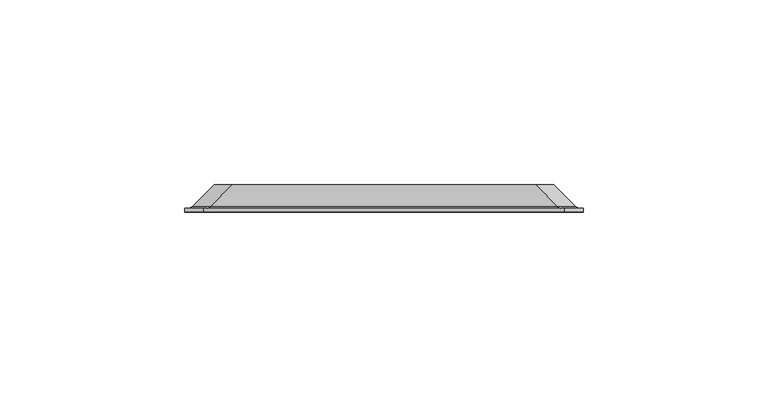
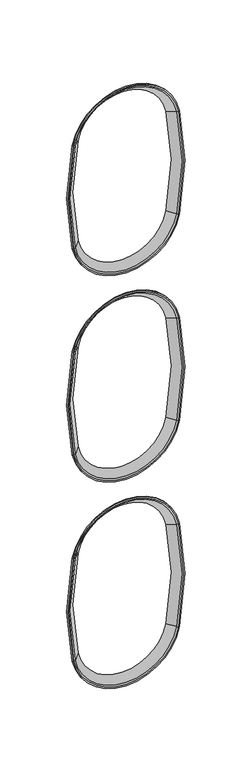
"""IFC4 building model written with IfcOpenShell, lengths in millimetres: proxy geometry, afs-LW-Stud-150 : afs-LW-Stud-150."""

from ifc_helpers import new_model, si_unit, point, frame, origin, place, context, project, spatial, polyline, circle_curve, ellipse_curve, trimmed, source, transform, mapped, element, save
from ifc_brep_helpers import plane_surface, cylinder_surface, revolved_surface, advanced_brep


def generic_models_67d9b5e8(model_context):
    return source(origin(), model_context, "Body", "AdvancedBrep", [
        advanced_brep(
        [(-46.3549295, 1.862006, 999.3576594), (-46.3549295, 1.862006, 900.6423406), (-40.4865309, 7.8489239, 901.8277027), (-40.4865309, 7.8489239, 998.1722973), (-47.7224696, 1.2, 999.6338898), (-47.7224696, 1.2, 900.3661102), (-49.0101813, 2.1883516, 999.8939957), (-49.0101813, 2.1883516, 900.1060043), (-49.0101813, 1.2, 900.1060043), (-49.0101813, 1.2, 999.8939957), (-47.0304204, 2.5870863, 999.4941023), (-47.0304204, 2.5870863, 900.5058977), (-47.9739947, 2.1883516, 900.3153044), (-47.9739947, 2.1883516, 999.6846956), (-41.1796395, 8.5560306, 998.3122988), (-41.1796395, 8.5560306, 901.6877012), (46.3549295, 1.862006, 900.6423406), (46.3549295, 1.862006, 999.3576594), (40.4865309, 7.8489239, 998.1722973), (40.4865309, 7.8489239, 901.8277027), (47.7224696, 1.2, 900.3661102), (47.7224696, 1.2, 999.6338898), (49.0101813, 2.1883516, 900.1060043), (49.0101813, 2.1883516, 999.8939957), (49.0101813, 1.2, 999.8939957), (49.0101813, 1.2, 900.1060043), (47.0304204, 2.5870863, 900.5058977), (47.0304204, 2.5870863, 999.4941023), (47.9739947, 2.1883516, 999.6846956), (47.9739947, 2.1883516, 900.3153044), (41.1796395, 8.5560306, 901.6877012), (41.1796395, 8.5560306, 998.3122988)],
        [
            (0, 1, circle_curve(frame((198.0011326, 1.862006, 950.0), z_axis=(0.0, -1.0, 0.0), x_axis=(-0.9802036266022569, 0.0, -0.19799204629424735)), 249.2911222)),
            (1, 2),
            (2, 3, circle_curve(frame((198.0011326, 7.8489239, 950.0), z_axis=(0.0, 1.0, 0.0), x_axis=(-0.9802036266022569, 0.0, -0.19799204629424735)), 243.3042043)),
            (3, 0),
            (4, 5, circle_curve(frame((198.0011326, 1.2, 950.0), z_axis=(0.0, -1.0, 0.0), x_axis=(-0.9802036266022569, 0.0, -0.19799204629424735)), 250.6862814)),
            (5, 1, circle_curve(frame((-47.9490794, 3.4883516, 900.3203371), z_axis=(-0.19799204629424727, 0.0, 0.9802036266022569), x_axis=(0.9802036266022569, 0.0, 0.19799204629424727)), 2.3)),
            (0, 4, circle_curve(frame((-47.9490794, 3.4883516, 999.6796629), z_axis=(-0.19799204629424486, 0.0, -0.9802036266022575), x_axis=(0.9802036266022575, 0.0, -0.19799204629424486)), 2.3)),
            (6, 7, circle_curve(frame((198.0011326, 2.1883516, 950.0), z_axis=(0.0, -1.0, 0.0), x_axis=(-0.9802036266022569, 0.0, -0.19799204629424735)), 252.0)),
            (7, 8),
            (8, 9, circle_curve(frame((198.0011326, 1.2, 950.0), z_axis=(0.0, 1.0, 0.0), x_axis=(-0.9802036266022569, 0.0, -0.19799204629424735)), 252.0)),
            (9, 6),
            (10, 11, circle_curve(frame((198.0011326, 2.5870863, 950.0), z_axis=(0.0, -1.0, 0.0), x_axis=(-0.9802036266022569, 0.0, -0.19799204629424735)), 249.9802554)),
            (11, 12, circle_curve(frame((-47.9739947, 3.5497172, 900.3153044), z_axis=(0.19799204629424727, 0.0, -0.9802036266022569), x_axis=(0.9802036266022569, 0.0, 0.19799204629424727)), 1.3613657)),
            (12, 13, circle_curve(frame((198.0011326, 2.1883516, 950.0), z_axis=(0.0, 1.0, 0.0), x_axis=(-0.9802036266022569, 0.0, -0.19799204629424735)), 250.9428863)),
            (13, 10, circle_curve(frame((-47.9739947, 3.5497172, 999.6846956), z_axis=(0.1979920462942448, 0.0, 0.9802036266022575), x_axis=(0.9802036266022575, 0.0, -0.1979920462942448)), 1.3613657)),
            (14, 15, circle_curve(frame((198.0011326, 8.5560306, 950.0), z_axis=(0.0, -1.0, 0.0), x_axis=(-0.9802036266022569, 0.0, -0.19799204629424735)), 244.0113111)),
            (15, 11),
            (10, 14),
            (2, 15),
            (14, 3),
            (16, 17, circle_curve(frame((-198.0011326, 1.862006, 950.0), z_axis=(0.0, -1.0, 0.0), x_axis=(0.9802036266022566, 0.0, 0.19799204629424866)), 249.2911222)),
            (17, 18),
            (18, 19, circle_curve(frame((-198.0011326, 7.8489239, 950.0), z_axis=(0.0, 1.0, 0.0), x_axis=(0.9802036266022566, 0.0, 0.19799204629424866)), 243.3042043)),
            (19, 16),
            (20, 21, circle_curve(frame((-198.0011326, 1.2, 950.0), z_axis=(0.0, -1.0, 0.0), x_axis=(0.9802036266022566, 0.0, 0.19799204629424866)), 250.6862814)),
            (21, 17, circle_curve(frame((47.9490794, 3.4883516, 999.6796629), z_axis=(0.19799204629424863, 0.0, -0.9802036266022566), x_axis=(-0.9802036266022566, 0.0, -0.19799204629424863)), 2.3)),
            (16, 20, circle_curve(frame((47.9490794, 3.4883516, 900.3203371), z_axis=(0.1979920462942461, 0.0, 0.980203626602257), x_axis=(-0.980203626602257, 0.0, 0.1979920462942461)), 2.3)),
            (22, 23, circle_curve(frame((-198.0011326, 2.1883516, 950.0), z_axis=(0.0, -1.0, 0.0), x_axis=(0.9802036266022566, 0.0, 0.19799204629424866)), 252.0)),
            (23, 24),
            (24, 25, circle_curve(frame((-198.0011326, 1.2, 950.0), z_axis=(0.0, 1.0, 0.0), x_axis=(0.9802036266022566, 0.0, 0.19799204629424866)), 252.0)),
            (25, 22),
            (26, 27, circle_curve(frame((-198.0011326, 2.5870863, 950.0), z_axis=(0.0, -1.0, 0.0), x_axis=(0.9802036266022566, 0.0, 0.19799204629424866)), 249.9802554)),
            (27, 28, circle_curve(frame((47.9739947, 3.5497172, 999.6846956), z_axis=(-0.19799204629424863, 0.0, 0.9802036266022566), x_axis=(-0.9802036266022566, 0.0, -0.19799204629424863)), 1.3613657)),
            (28, 29, circle_curve(frame((-198.0011326, 2.1883516, 950.0), z_axis=(0.0, 1.0, 0.0), x_axis=(0.9802036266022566, 0.0, 0.19799204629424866)), 250.9428863)),
            (29, 26, circle_curve(frame((47.9739947, 3.5497172, 900.3153044), z_axis=(-0.19799204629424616, 0.0, -0.980203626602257), x_axis=(-0.980203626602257, 0.0, 0.19799204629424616)), 1.3613657)),
            (30, 31, circle_curve(frame((-198.0011326, 8.5560306, 950.0), z_axis=(0.0, -1.0, 0.0), x_axis=(0.9802036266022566, 0.0, 0.19799204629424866)), 244.0113111)),
            (31, 27),
            (26, 30),
            (18, 31),
            (30, 19),
            (1, 16, circle_curve(frame((0.0, 1.862006, 910.0056066), z_axis=(0.0, -1.0, 0.0), x_axis=(0.980203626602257, 0.0, -0.19799204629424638)), 47.2911222)),
            (19, 2, circle_curve(frame((0.0, 7.8489239, 910.0056066), z_axis=(0.0, 1.0, 0.0), x_axis=(0.980203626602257, 0.0, -0.19799204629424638)), 41.3042043)),
            (5, 20, circle_curve(frame((0.0, 1.2, 910.0056066), z_axis=(0.0, -1.0, 0.0), x_axis=(0.980203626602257, 0.0, -0.19799204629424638)), 48.6862814)),
            (7, 22, circle_curve(frame((0.0, 2.1883516, 910.0056066), z_axis=(0.0, -1.0, 0.0), x_axis=(0.980203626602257, 0.0, -0.19799204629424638)), 50.0)),
            (25, 8, circle_curve(frame((0.0, 1.2, 910.0056066), z_axis=(0.0, 1.0, 0.0), x_axis=(0.980203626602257, 0.0, -0.19799204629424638)), 50.0)),
            (11, 26, circle_curve(frame((0.0, 2.5870863, 910.0056066), z_axis=(0.0, -1.0, 0.0), x_axis=(0.980203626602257, 0.0, -0.19799204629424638)), 47.9802554)),
            (29, 12, circle_curve(frame((0.0, 2.1883516, 910.0056066), z_axis=(0.0, 1.0, 0.0), x_axis=(0.980203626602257, 0.0, -0.19799204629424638)), 48.9428863)),
            (15, 30, circle_curve(frame((0.0, 8.5560306, 910.0056066), z_axis=(0.0, -1.0, 0.0), x_axis=(0.980203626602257, 0.0, -0.19799204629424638)), 42.0113111)),
            (17, 0, circle_curve(frame((0.0, 1.862006, 989.9943934), z_axis=(0.0, -1.0, 0.0), x_axis=(-0.9802036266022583, 0.0, 0.19799204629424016)), 47.2911222)),
            (3, 18, circle_curve(frame((0.0, 7.8489239, 989.9943934), z_axis=(0.0, 1.0, 0.0), x_axis=(-0.9802036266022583, 0.0, 0.19799204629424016)), 41.3042043)),
            (21, 4, circle_curve(frame((0.0, 1.2, 989.9943934), z_axis=(0.0, -1.0, 0.0), x_axis=(-0.9802036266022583, 0.0, 0.19799204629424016)), 48.6862814)),
            (24, 9, circle_curve(frame((0.0, 1.2, 989.9943934), z_axis=(0.0, -1.0, 0.0), x_axis=(-0.9802036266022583, 0.0, 0.19799204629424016)), 50.0)),
            (23, 6, circle_curve(frame((0.0, 2.1883516, 989.9943934), z_axis=(0.0, -1.0, 0.0), x_axis=(-0.9802036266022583, 0.0, 0.19799204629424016)), 50.0)),
            (28, 13, circle_curve(frame((0.0, 2.1883516, 989.9943934), z_axis=(0.0, -1.0, 0.0), x_axis=(-0.9802036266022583, 0.0, 0.19799204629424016)), 48.9428863)),
            (27, 10, circle_curve(frame((0.0, 2.5870863, 989.9943934), z_axis=(0.0, -1.0, 0.0), x_axis=(-0.9802036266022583, 0.0, 0.19799204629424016)), 47.9802554)),
            (31, 14, circle_curve(frame((0.0, 8.5560306, 989.9943934), z_axis=(0.0, -1.0, 0.0), x_axis=(-0.9802036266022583, 0.0, 0.19799204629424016)), 42.0113111)),
        ],
        [
            revolved_surface(polyline([(-40.4865309, 7.8489239, 901.8277027), (-46.3549295, 1.862006, 900.6423406)]), (198.0011326, 1.2, 950.0), (0.0, 1.0, 0.0)),
            revolved_surface(trimmed(ellipse_curve(frame((-47.9490794, 3.4883516, 900.3203371), z_axis=(0.19799204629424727, 0.0, -0.9802036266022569), x_axis=(0.9802036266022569, 0.0, 0.19799204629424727)), 2.3, 2.3), [point((-46.3549295, 1.862006, 900.6423406))], [point((-47.7224696, 1.2, 900.3661102))], True, "CARTESIAN"), (198.0011326, 1.2, 950.0), (0.0, 1.0, 0.0)),
            cylinder_surface(frame((198.0011326, 1.2, 950.0), z_axis=(0.0, 1.0, 0.0), x_axis=(-0.9802036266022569, 0.0, -0.19799204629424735)), 252.0),
            revolved_surface(trimmed(ellipse_curve(frame((-47.9739947, 3.5497172, 900.3153044), z_axis=(-0.19799204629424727, 0.0, 0.9802036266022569), x_axis=(0.9802036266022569, 0.0, 0.19799204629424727)), 1.3613657, 1.3613657), [point((-47.9739947, 2.1883516, 900.3153044))], [point((-47.0304204, 2.5870863, 900.5058977))], True, "CARTESIAN"), (198.0011326, 1.2, 950.0), (0.0, 1.0, 0.0)),
            revolved_surface(polyline([(-47.0304204, 2.5870863, 900.5058977), (-41.1796395, 8.5560306, 901.6877012)]), (198.0011326, 1.2, 950.0), (0.0, 1.0, 0.0)),
            revolved_surface(polyline([(-41.1796395, 8.5560306, 901.6877012), (-40.4865309, 7.8489239, 901.8277027)]), (198.0011326, 1.2, 950.0), (0.0, 1.0, 0.0)),
            revolved_surface(polyline([(40.4865309, 7.8489239, 998.1722973), (46.3549295, 1.862006, 999.3576594)]), (-198.0011326, 1.2, 950.0), (0.0, 1.0, 0.0)),
            revolved_surface(trimmed(ellipse_curve(frame((47.9490794, 3.4883516, 999.6796629), z_axis=(-0.19799204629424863, 0.0, 0.9802036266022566), x_axis=(-0.9802036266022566, 0.0, -0.19799204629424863)), 2.3, 2.3), [point((46.3549295, 1.862006, 999.3576594))], [point((47.7224696, 1.2, 999.6338898))], True, "CARTESIAN"), (-198.0011326, 1.2, 950.0), (0.0, 1.0, 0.0)),
            cylinder_surface(frame((-198.0011326, 1.2, 950.0), z_axis=(0.0, 1.0, 0.0), x_axis=(0.9802036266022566, 0.0, 0.19799204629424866)), 252.0),
            revolved_surface(trimmed(ellipse_curve(frame((47.9739947, 3.5497172, 999.6846956), z_axis=(0.19799204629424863, 0.0, -0.9802036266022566), x_axis=(-0.9802036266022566, 0.0, -0.19799204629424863)), 1.3613657, 1.3613657), [point((47.9739947, 2.1883516, 999.6846956))], [point((47.0304204, 2.5870863, 999.4941023))], True, "CARTESIAN"), (-198.0011326, 1.2, 950.0), (0.0, 1.0, 0.0)),
            revolved_surface(polyline([(47.0304204, 2.5870863, 999.4941023), (41.1796395, 8.5560306, 998.3122988)]), (-198.0011326, 1.2, 950.0), (0.0, 1.0, 0.0)),
            revolved_surface(polyline([(41.1796395, 8.5560306, 998.3122988), (40.4865309, 7.8489239, 998.1722973)]), (-198.0011326, 1.2, 950.0), (0.0, 1.0, 0.0)),
            revolved_surface(polyline([(40.4865309, 7.8489239, 901.8277027), (46.3549295, 1.862006, 900.6423406)]), (0.0, 1.2, 910.0056066), (0.0, 1.0, 0.0)),
            revolved_surface(trimmed(ellipse_curve(frame((47.9490794, 3.4883516, 900.3203371), z_axis=(0.19799204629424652, 0.0, 0.980203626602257), x_axis=(-0.980203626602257, 0.0, 0.19799204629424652)), 2.3, 2.3), [point((46.3549295, 1.862006, 900.6423406))], [point((47.7224696, 1.2, 900.3661102))], True, "CARTESIAN"), (0.0, 1.2, 910.0056066), (0.0, 1.0, 0.0)),
            cylinder_surface(frame((0.0, 1.2, 910.0056066), z_axis=(0.0, 1.0, 0.0), x_axis=(0.980203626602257, 0.0, -0.19799204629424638)), 50.0),
            revolved_surface(trimmed(ellipse_curve(frame((47.9739947, 3.5497172, 900.3153044), z_axis=(-0.19799204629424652, 0.0, -0.980203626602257), x_axis=(-0.980203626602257, 0.0, 0.19799204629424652)), 1.3613657, 1.3613657), [point((47.9739947, 2.1883516, 900.3153044))], [point((47.0304204, 2.5870863, 900.5058977))], True, "CARTESIAN"), (0.0, 1.2, 910.0056066), (0.0, 1.0, 0.0)),
            revolved_surface(polyline([(47.0304204, 2.5870863, 900.5058977), (41.1796395, 8.5560306, 901.6877012)]), (0.0, 1.2, 910.0056066), (0.0, 1.0, 0.0)),
            revolved_surface(polyline([(41.1796395, 8.5560306, 901.6877012), (40.4865309, 7.8489239, 901.8277027)]), (0.0, 1.2, 910.0056066), (0.0, 1.0, 0.0)),
            revolved_surface(polyline([(-40.4865309, 7.8489239, 998.1722973), (-46.3549295, 1.862006, 999.3576594)]), (0.0, 1.2, 989.9943934), (0.0, 1.0, 0.0)),
            revolved_surface(trimmed(ellipse_curve(frame((-47.9490794, 3.4883516, 999.6796629), z_axis=(-0.19799204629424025, 0.0, -0.9802036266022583), x_axis=(0.9802036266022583, 0.0, -0.19799204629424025)), 2.3, 2.3), [point((-46.3549295, 1.862006, 999.3576594))], [point((-47.7224696, 1.2, 999.6338898))], True, "CARTESIAN"), (0.0, 1.2, 989.9943934), (0.0, 1.0, 0.0)),
            plane_surface(frame((0.0, 1.2, 989.9943934), z_axis=(0.0, -1.0, 0.0), x_axis=(-0.9802036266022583, 0.0, 0.19799204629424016))),
            cylinder_surface(frame((0.0, 1.2, 989.9943934), z_axis=(0.0, 1.0, 0.0), x_axis=(-0.9802036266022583, 0.0, 0.19799204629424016)), 50.0),
            plane_surface(frame((0.0, 2.1883516, 989.9943934), z_axis=(0.0, 1.0, 0.0), x_axis=(-0.9802036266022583, 0.0, 0.19799204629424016))),
            revolved_surface(trimmed(ellipse_curve(frame((-47.9739947, 3.5497172, 999.6846956), z_axis=(0.19799204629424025, 0.0, 0.9802036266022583), x_axis=(0.9802036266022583, 0.0, -0.19799204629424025)), 1.3613657, 1.3613657), [point((-47.9739947, 2.1883516, 999.6846956))], [point((-47.0304204, 2.5870863, 999.4941023))], True, "CARTESIAN"), (0.0, 1.2, 989.9943934), (0.0, 1.0, 0.0)),
            revolved_surface(polyline([(-47.0304204, 2.5870863, 999.4941023), (-41.1796395, 8.5560306, 998.3122988)]), (0.0, 1.2, 989.9943934), (0.0, 1.0, 0.0)),
            revolved_surface(polyline([(-41.1796395, 8.5560306, 998.3122988), (-40.4865309, 7.8489239, 998.1722973)]), (0.0, 1.2, 989.9943934), (0.0, 1.0, 0.0)),
        ],
        [
            (0, [[1, 2, 3, 4]]),
            (1, [[5, 6, -1, 7]]),
            (2, [[8, 9, 10, 11]]),
            (3, [[12, 13, 14, 15]]),
            (4, [[16, 17, -12, 18]]),
            (5, [[-3, 19, -16, 20]]),
            (6, [[21, 22, 23, 24]]),
            (7, [[25, 26, -21, 27]]),
            (8, [[28, 29, 30, 31]]),
            (9, [[32, 33, 34, 35]]),
            (10, [[36, 37, -32, 38]]),
            (11, [[-23, 39, -36, 40]]),
            (12, [[41, -24, 42, -2]]),
            (13, [[43, -27, -41, -6]]),
            (14, [[44, -31, 45, -9]]),
            (15, [[46, -35, 47, -13]]),
            (16, [[48, -38, -46, -17]]),
            (17, [[-42, -40, -48, -19]]),
            (18, [[49, -4, 50, -22]]),
            (19, [[51, -7, -49, -26]]),
            (20, [[52, -10, -45, -30], [-25, -43, -5, -51]]),
            (21, [[53, -11, -52, -29]]),
            (22, [[-28, -44, -8, -53], [54, -14, -47, -34]]),
            (23, [[55, -15, -54, -33]]),
            (24, [[56, -18, -55, -37]]),
            (25, [[-50, -20, -56, -39]]),
        ],
    ),
        advanced_brep(
        [(-46.3549295, 1.862006, 799.3576594), (-46.3549295, 1.862006, 700.6423406), (-40.4865309, 7.8489239, 701.8277027), (-40.4865309, 7.8489239, 798.1722973), (-47.7224696, 1.2, 799.6338898), (-47.7224696, 1.2, 700.3661102), (-49.0101813, 2.1883516, 799.8939957), (-49.0101813, 2.1883516, 700.1060043), (-49.0101813, 1.2, 700.1060043), (-49.0101813, 1.2, 799.8939957), (-47.0304204, 2.5870863, 799.4941023), (-47.0304204, 2.5870863, 700.5058977), (-47.9739947, 2.1883516, 700.3153044), (-47.9739947, 2.1883516, 799.6846956), (-41.1796395, 8.5560306, 798.3122988), (-41.1796395, 8.5560306, 701.6877012), (46.3549295, 1.862006, 700.6423406), (46.3549295, 1.862006, 799.3576594), (40.4865309, 7.8489239, 798.1722973), (40.4865309, 7.8489239, 701.8277027), (47.7224696, 1.2, 700.3661102), (47.7224696, 1.2, 799.6338898), (49.0101813, 2.1883516, 700.1060043), (49.0101813, 2.1883516, 799.8939957), (49.0101813, 1.2, 799.8939957), (49.0101813, 1.2, 700.1060043), (47.0304204, 2.5870863, 700.5058977), (47.0304204, 2.5870863, 799.4941023), (47.9739947, 2.1883516, 799.6846956), (47.9739947, 2.1883516, 700.3153044), (41.1796395, 8.5560306, 701.6877012), (41.1796395, 8.5560306, 798.3122988)],
        [
            (0, 1, circle_curve(frame((198.0011326, 1.862006, 750.0), z_axis=(0.0, -1.0, 0.0), x_axis=(-0.9802036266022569, 0.0, -0.19799204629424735)), 249.2911222)),
            (1, 2),
            (2, 3, circle_curve(frame((198.0011326, 7.8489239, 750.0), z_axis=(0.0, 1.0, 0.0), x_axis=(-0.9802036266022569, 0.0, -0.19799204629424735)), 243.3042043)),
            (3, 0),
            (4, 5, circle_curve(frame((198.0011326, 1.2, 750.0), z_axis=(0.0, -1.0, 0.0), x_axis=(-0.9802036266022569, 0.0, -0.19799204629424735)), 250.6862814)),
            (5, 1, circle_curve(frame((-47.9490794, 3.4883516, 700.3203371), z_axis=(-0.19799204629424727, 0.0, 0.9802036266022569), x_axis=(0.9802036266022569, 0.0, 0.19799204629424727)), 2.3)),
            (0, 4, circle_curve(frame((-47.9490794, 3.4883516, 799.6796629), z_axis=(-0.19799204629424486, 0.0, -0.9802036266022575), x_axis=(0.9802036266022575, 0.0, -0.19799204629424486)), 2.3)),
            (6, 7, circle_curve(frame((198.0011326, 2.1883516, 750.0), z_axis=(0.0, -1.0, 0.0), x_axis=(-0.9802036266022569, 0.0, -0.19799204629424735)), 252.0)),
            (7, 8),
            (8, 9, circle_curve(frame((198.0011326, 1.2, 750.0), z_axis=(0.0, 1.0, 0.0), x_axis=(-0.9802036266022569, 0.0, -0.19799204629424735)), 252.0)),
            (9, 6),
            (10, 11, circle_curve(frame((198.0011326, 2.5870863, 750.0), z_axis=(0.0, -1.0, 0.0), x_axis=(-0.9802036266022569, 0.0, -0.19799204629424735)), 249.9802554)),
            (11, 12, circle_curve(frame((-47.9739947, 3.5497172, 700.3153044), z_axis=(0.19799204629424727, 0.0, -0.9802036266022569), x_axis=(0.9802036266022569, 0.0, 0.19799204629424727)), 1.3613657)),
            (12, 13, circle_curve(frame((198.0011326, 2.1883516, 750.0), z_axis=(0.0, 1.0, 0.0), x_axis=(-0.9802036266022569, 0.0, -0.19799204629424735)), 250.9428863)),
            (13, 10, circle_curve(frame((-47.9739947, 3.5497172, 799.6846956), z_axis=(0.1979920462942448, 0.0, 0.9802036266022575), x_axis=(0.9802036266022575, 0.0, -0.1979920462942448)), 1.3613657)),
            (14, 15, circle_curve(frame((198.0011326, 8.5560306, 750.0), z_axis=(0.0, -1.0, 0.0), x_axis=(-0.9802036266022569, 0.0, -0.19799204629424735)), 244.0113111)),
            (15, 11),
            (10, 14),
            (2, 15),
            (14, 3),
            (16, 17, circle_curve(frame((-198.0011326, 1.862006, 750.0), z_axis=(0.0, -1.0, 0.0), x_axis=(0.9802036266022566, 0.0, 0.19799204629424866)), 249.2911222)),
            (17, 18),
            (18, 19, circle_curve(frame((-198.0011326, 7.8489239, 750.0), z_axis=(0.0, 1.0, 0.0), x_axis=(0.9802036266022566, 0.0, 0.19799204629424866)), 243.3042043)),
            (19, 16),
            (20, 21, circle_curve(frame((-198.0011326, 1.2, 750.0), z_axis=(0.0, -1.0, 0.0), x_axis=(0.9802036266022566, 0.0, 0.19799204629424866)), 250.6862814)),
            (21, 17, circle_curve(frame((47.9490794, 3.4883516, 799.6796629), z_axis=(0.19799204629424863, 0.0, -0.9802036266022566), x_axis=(-0.9802036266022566, 0.0, -0.19799204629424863)), 2.3)),
            (16, 20, circle_curve(frame((47.9490794, 3.4883516, 700.3203371), z_axis=(0.1979920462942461, 0.0, 0.980203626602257), x_axis=(-0.980203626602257, 0.0, 0.1979920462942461)), 2.3)),
            (22, 23, circle_curve(frame((-198.0011326, 2.1883516, 750.0), z_axis=(0.0, -1.0, 0.0), x_axis=(0.9802036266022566, 0.0, 0.19799204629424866)), 252.0)),
            (23, 24),
            (24, 25, circle_curve(frame((-198.0011326, 1.2, 750.0), z_axis=(0.0, 1.0, 0.0), x_axis=(0.9802036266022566, 0.0, 0.19799204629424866)), 252.0)),
            (25, 22),
            (26, 27, circle_curve(frame((-198.0011326, 2.5870863, 750.0), z_axis=(0.0, -1.0, 0.0), x_axis=(0.9802036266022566, 0.0, 0.19799204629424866)), 249.9802554)),
            (27, 28, circle_curve(frame((47.9739947, 3.5497172, 799.6846956), z_axis=(-0.19799204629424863, 0.0, 0.9802036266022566), x_axis=(-0.9802036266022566, 0.0, -0.19799204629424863)), 1.3613657)),
            (28, 29, circle_curve(frame((-198.0011326, 2.1883516, 750.0), z_axis=(0.0, 1.0, 0.0), x_axis=(0.9802036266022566, 0.0, 0.19799204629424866)), 250.9428863)),
            (29, 26, circle_curve(frame((47.9739947, 3.5497172, 700.3153044), z_axis=(-0.19799204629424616, 0.0, -0.980203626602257), x_axis=(-0.980203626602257, 0.0, 0.19799204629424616)), 1.3613657)),
            (30, 31, circle_curve(frame((-198.0011326, 8.5560306, 750.0), z_axis=(0.0, -1.0, 0.0), x_axis=(0.9802036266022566, 0.0, 0.19799204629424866)), 244.0113111)),
            (31, 27),
            (26, 30),
            (18, 31),
            (30, 19),
            (1, 16, circle_curve(frame((0.0, 1.862006, 710.0056066), z_axis=(0.0, -1.0, 0.0), x_axis=(0.980203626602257, 0.0, -0.19799204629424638)), 47.2911222)),
            (19, 2, circle_curve(frame((0.0, 7.8489239, 710.0056066), z_axis=(0.0, 1.0, 0.0), x_axis=(0.980203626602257, 0.0, -0.19799204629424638)), 41.3042043)),
            (5, 20, circle_curve(frame((0.0, 1.2, 710.0056066), z_axis=(0.0, -1.0, 0.0), x_axis=(0.980203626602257, 0.0, -0.19799204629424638)), 48.6862814)),
            (7, 22, circle_curve(frame((0.0, 2.1883516, 710.0056066), z_axis=(0.0, -1.0, 0.0), x_axis=(0.980203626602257, 0.0, -0.19799204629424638)), 50.0)),
            (25, 8, circle_curve(frame((0.0, 1.2, 710.0056066), z_axis=(0.0, 1.0, 0.0), x_axis=(0.980203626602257, 0.0, -0.19799204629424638)), 50.0)),
            (11, 26, circle_curve(frame((0.0, 2.5870863, 710.0056066), z_axis=(0.0, -1.0, 0.0), x_axis=(0.980203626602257, 0.0, -0.19799204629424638)), 47.9802554)),
            (29, 12, circle_curve(frame((0.0, 2.1883516, 710.0056066), z_axis=(0.0, 1.0, 0.0), x_axis=(0.980203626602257, 0.0, -0.19799204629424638)), 48.9428863)),
            (15, 30, circle_curve(frame((0.0, 8.5560306, 710.0056066), z_axis=(0.0, -1.0, 0.0), x_axis=(0.980203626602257, 0.0, -0.19799204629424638)), 42.0113111)),
            (17, 0, circle_curve(frame((0.0, 1.862006, 789.9943934), z_axis=(0.0, -1.0, 0.0), x_axis=(-0.9802036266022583, 0.0, 0.19799204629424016)), 47.2911222)),
            (3, 18, circle_curve(frame((0.0, 7.8489239, 789.9943934), z_axis=(0.0, 1.0, 0.0), x_axis=(-0.9802036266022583, 0.0, 0.19799204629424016)), 41.3042043)),
            (21, 4, circle_curve(frame((0.0, 1.2, 789.9943934), z_axis=(0.0, -1.0, 0.0), x_axis=(-0.9802036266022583, 0.0, 0.19799204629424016)), 48.6862814)),
            (24, 9, circle_curve(frame((0.0, 1.2, 789.9943934), z_axis=(0.0, -1.0, 0.0), x_axis=(-0.9802036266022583, 0.0, 0.19799204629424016)), 50.0)),
            (23, 6, circle_curve(frame((0.0, 2.1883516, 789.9943934), z_axis=(0.0, -1.0, 0.0), x_axis=(-0.9802036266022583, 0.0, 0.19799204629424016)), 50.0)),
            (28, 13, circle_curve(frame((0.0, 2.1883516, 789.9943934), z_axis=(0.0, -1.0, 0.0), x_axis=(-0.9802036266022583, 0.0, 0.19799204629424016)), 48.9428863)),
            (27, 10, circle_curve(frame((0.0, 2.5870863, 789.9943934), z_axis=(0.0, -1.0, 0.0), x_axis=(-0.9802036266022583, 0.0, 0.19799204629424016)), 47.9802554)),
            (31, 14, circle_curve(frame((0.0, 8.5560306, 789.9943934), z_axis=(0.0, -1.0, 0.0), x_axis=(-0.9802036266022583, 0.0, 0.19799204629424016)), 42.0113111)),
        ],
        [
            revolved_surface(polyline([(-40.4865309, 7.8489239, 701.8277027), (-46.3549295, 1.862006, 700.6423406)]), (198.0011326, 1.2, 750.0), (0.0, 1.0, 0.0)),
            revolved_surface(trimmed(ellipse_curve(frame((-47.9490794, 3.4883516, 700.3203371), z_axis=(0.19799204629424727, 0.0, -0.9802036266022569), x_axis=(0.9802036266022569, 0.0, 0.19799204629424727)), 2.3, 2.3), [point((-46.3549295, 1.862006, 700.6423406))], [point((-47.7224696, 1.2, 700.3661102))], True, "CARTESIAN"), (198.0011326, 1.2, 750.0), (0.0, 1.0, 0.0)),
            cylinder_surface(frame((198.0011326, 1.2, 750.0), z_axis=(0.0, 1.0, 0.0), x_axis=(-0.9802036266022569, 0.0, -0.19799204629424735)), 252.0),
            revolved_surface(trimmed(ellipse_curve(frame((-47.9739947, 3.5497172, 700.3153044), z_axis=(-0.19799204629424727, 0.0, 0.9802036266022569), x_axis=(0.9802036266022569, 0.0, 0.19799204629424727)), 1.3613657, 1.3613657), [point((-47.9739947, 2.1883516, 700.3153044))], [point((-47.0304204, 2.5870863, 700.5058977))], True, "CARTESIAN"), (198.0011326, 1.2, 750.0), (0.0, 1.0, 0.0)),
            revolved_surface(polyline([(-47.0304204, 2.5870863, 700.5058977), (-41.1796395, 8.5560306, 701.6877012)]), (198.0011326, 1.2, 750.0), (0.0, 1.0, 0.0)),
            revolved_surface(polyline([(-41.1796395, 8.5560306, 701.6877012), (-40.4865309, 7.8489239, 701.8277027)]), (198.0011326, 1.2, 750.0), (0.0, 1.0, 0.0)),
            revolved_surface(polyline([(40.4865309, 7.8489239, 798.1722973), (46.3549295, 1.862006, 799.3576594)]), (-198.0011326, 1.2, 750.0), (0.0, 1.0, 0.0)),
            revolved_surface(trimmed(ellipse_curve(frame((47.9490794, 3.4883516, 799.6796629), z_axis=(-0.19799204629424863, 0.0, 0.9802036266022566), x_axis=(-0.9802036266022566, 0.0, -0.19799204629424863)), 2.3, 2.3), [point((46.3549295, 1.862006, 799.3576594))], [point((47.7224696, 1.2, 799.6338898))], True, "CARTESIAN"), (-198.0011326, 1.2, 750.0), (0.0, 1.0, 0.0)),
            cylinder_surface(frame((-198.0011326, 1.2, 750.0), z_axis=(0.0, 1.0, 0.0), x_axis=(0.9802036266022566, 0.0, 0.19799204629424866)), 252.0),
            revolved_surface(trimmed(ellipse_curve(frame((47.9739947, 3.5497172, 799.6846956), z_axis=(0.19799204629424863, 0.0, -0.9802036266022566), x_axis=(-0.9802036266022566, 0.0, -0.19799204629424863)), 1.3613657, 1.3613657), [point((47.9739947, 2.1883516, 799.6846956))], [point((47.0304204, 2.5870863, 799.4941023))], True, "CARTESIAN"), (-198.0011326, 1.2, 750.0), (0.0, 1.0, 0.0)),
            revolved_surface(polyline([(47.0304204, 2.5870863, 799.4941023), (41.1796395, 8.5560306, 798.3122988)]), (-198.0011326, 1.2, 750.0), (0.0, 1.0, 0.0)),
            revolved_surface(polyline([(41.1796395, 8.5560306, 798.3122988), (40.4865309, 7.8489239, 798.1722973)]), (-198.0011326, 1.2, 750.0), (0.0, 1.0, 0.0)),
            revolved_surface(polyline([(40.4865309, 7.8489239, 701.8277027), (46.3549295, 1.862006, 700.6423406)]), (0.0, 1.2, 710.0056066), (0.0, 1.0, 0.0)),
            revolved_surface(trimmed(ellipse_curve(frame((47.9490794, 3.4883516, 700.3203371), z_axis=(0.19799204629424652, 0.0, 0.980203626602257), x_axis=(-0.980203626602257, 0.0, 0.19799204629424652)), 2.3, 2.3), [point((46.3549295, 1.862006, 700.6423406))], [point((47.7224696, 1.2, 700.3661102))], True, "CARTESIAN"), (0.0, 1.2, 710.0056066), (0.0, 1.0, 0.0)),
            cylinder_surface(frame((0.0, 1.2, 710.0056066), z_axis=(0.0, 1.0, 0.0), x_axis=(0.980203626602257, 0.0, -0.19799204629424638)), 50.0),
            revolved_surface(trimmed(ellipse_curve(frame((47.9739947, 3.5497172, 700.3153044), z_axis=(-0.19799204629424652, 0.0, -0.980203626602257), x_axis=(-0.980203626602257, 0.0, 0.19799204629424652)), 1.3613657, 1.3613657), [point((47.9739947, 2.1883516, 700.3153044))], [point((47.0304204, 2.5870863, 700.5058977))], True, "CARTESIAN"), (0.0, 1.2, 710.0056066), (0.0, 1.0, 0.0)),
            revolved_surface(polyline([(47.0304204, 2.5870863, 700.5058977), (41.1796395, 8.5560306, 701.6877012)]), (0.0, 1.2, 710.0056066), (0.0, 1.0, 0.0)),
            revolved_surface(polyline([(41.1796395, 8.5560306, 701.6877012), (40.4865309, 7.8489239, 701.8277027)]), (0.0, 1.2, 710.0056066), (0.0, 1.0, 0.0)),
            revolved_surface(polyline([(-40.4865309, 7.8489239, 798.1722973), (-46.3549295, 1.862006, 799.3576594)]), (0.0, 1.2, 789.9943934), (0.0, 1.0, 0.0)),
            revolved_surface(trimmed(ellipse_curve(frame((-47.9490794, 3.4883516, 799.6796629), z_axis=(-0.19799204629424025, 0.0, -0.9802036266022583), x_axis=(0.9802036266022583, 0.0, -0.19799204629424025)), 2.3, 2.3), [point((-46.3549295, 1.862006, 799.3576594))], [point((-47.7224696, 1.2, 799.6338898))], True, "CARTESIAN"), (0.0, 1.2, 789.9943934), (0.0, 1.0, 0.0)),
            plane_surface(frame((0.0, 1.2, 789.9943934), z_axis=(0.0, -1.0, 0.0), x_axis=(-0.9802036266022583, 0.0, 0.19799204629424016))),
            cylinder_surface(frame((0.0, 1.2, 789.9943934), z_axis=(0.0, 1.0, 0.0), x_axis=(-0.9802036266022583, 0.0, 0.19799204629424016)), 50.0),
            plane_surface(frame((0.0, 2.1883516, 789.9943934), z_axis=(0.0, 1.0, 0.0), x_axis=(-0.9802036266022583, 0.0, 0.19799204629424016))),
            revolved_surface(trimmed(ellipse_curve(frame((-47.9739947, 3.5497172, 799.6846956), z_axis=(0.19799204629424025, 0.0, 0.9802036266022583), x_axis=(0.9802036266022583, 0.0, -0.19799204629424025)), 1.3613657, 1.3613657), [point((-47.9739947, 2.1883516, 799.6846956))], [point((-47.0304204, 2.5870863, 799.4941023))], True, "CARTESIAN"), (0.0, 1.2, 789.9943934), (0.0, 1.0, 0.0)),
            revolved_surface(polyline([(-47.0304204, 2.5870863, 799.4941023), (-41.1796395, 8.5560306, 798.3122988)]), (0.0, 1.2, 789.9943934), (0.0, 1.0, 0.0)),
            revolved_surface(polyline([(-41.1796395, 8.5560306, 798.3122988), (-40.4865309, 7.8489239, 798.1722973)]), (0.0, 1.2, 789.9943934), (0.0, 1.0, 0.0)),
        ],
        [
            (0, [[1, 2, 3, 4]]),
            (1, [[5, 6, -1, 7]]),
            (2, [[8, 9, 10, 11]]),
            (3, [[12, 13, 14, 15]]),
            (4, [[16, 17, -12, 18]]),
            (5, [[-3, 19, -16, 20]]),
            (6, [[21, 22, 23, 24]]),
            (7, [[25, 26, -21, 27]]),
            (8, [[28, 29, 30, 31]]),
            (9, [[32, 33, 34, 35]]),
            (10, [[36, 37, -32, 38]]),
            (11, [[-23, 39, -36, 40]]),
            (12, [[41, -24, 42, -2]]),
            (13, [[43, -27, -41, -6]]),
            (14, [[44, -31, 45, -9]]),
            (15, [[46, -35, 47, -13]]),
            (16, [[48, -38, -46, -17]]),
            (17, [[-42, -40, -48, -19]]),
            (18, [[49, -4, 50, -22]]),
            (19, [[51, -7, -49, -26]]),
            (20, [[52, -10, -45, -30], [-25, -43, -5, -51]]),
            (21, [[53, -11, -52, -29]]),
            (22, [[-28, -44, -8, -53], [54, -14, -47, -34]]),
            (23, [[55, -15, -54, -33]]),
            (24, [[56, -18, -55, -37]]),
            (25, [[-50, -20, -56, -39]]),
        ],
    ),
        advanced_brep(
        [(-46.3549295, 1.862006, 599.3576594), (-46.3549295, 1.862006, 500.6423406), (-40.4865309, 7.8489239, 501.8277027), (-40.4865309, 7.8489239, 598.1722973), (-47.7224696, 1.2, 599.6338898), (-47.7224696, 1.2, 500.3661102), (-49.0101813, 2.1883516, 599.8939957), (-49.0101813, 2.1883516, 500.1060043), (-49.0101813, 1.2, 500.1060043), (-49.0101813, 1.2, 599.8939957), (-47.0304204, 2.5870863, 599.4941023), (-47.0304204, 2.5870863, 500.5058977), (-47.9739947, 2.1883516, 500.3153044), (-47.9739947, 2.1883516, 599.6846956), (-41.1796395, 8.5560306, 598.3122988), (-41.1796395, 8.5560306, 501.6877012), (46.3549295, 1.862006, 500.6423406), (46.3549295, 1.862006, 599.3576594), (40.4865309, 7.8489239, 598.1722973), (40.4865309, 7.8489239, 501.8277027), (47.7224696, 1.2, 500.3661102), (47.7224696, 1.2, 599.6338898), (49.0101813, 2.1883516, 500.1060043), (49.0101813, 2.1883516, 599.8939957), (49.0101813, 1.2, 599.8939957), (49.0101813, 1.2, 500.1060043), (47.0304204, 2.5870863, 500.5058977), (47.0304204, 2.5870863, 599.4941023), (47.9739947, 2.1883516, 599.6846956), (47.9739947, 2.1883516, 500.3153044), (41.1796395, 8.5560306, 501.6877012), (41.1796395, 8.5560306, 598.3122988)],
        [
            (0, 1, circle_curve(frame((198.0011326, 1.862006, 550.0), z_axis=(0.0, -1.0, 0.0), x_axis=(-0.9802036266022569, 0.0, -0.19799204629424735)), 249.2911222)),
            (1, 2),
            (2, 3, circle_curve(frame((198.0011326, 7.8489239, 550.0), z_axis=(0.0, 1.0, 0.0), x_axis=(-0.9802036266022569, 0.0, -0.19799204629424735)), 243.3042043)),
            (3, 0),
            (4, 5, circle_curve(frame((198.0011326, 1.2, 550.0), z_axis=(0.0, -1.0, 0.0), x_axis=(-0.9802036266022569, 0.0, -0.19799204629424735)), 250.6862814)),
            (5, 1, circle_curve(frame((-47.9490794, 3.4883516, 500.3203371), z_axis=(-0.19799204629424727, 0.0, 0.9802036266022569), x_axis=(0.9802036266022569, 0.0, 0.19799204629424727)), 2.3)),
            (0, 4, circle_curve(frame((-47.9490794, 3.4883516, 599.6796629), z_axis=(-0.19799204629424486, 0.0, -0.9802036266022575), x_axis=(0.9802036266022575, 0.0, -0.19799204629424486)), 2.3)),
            (6, 7, circle_curve(frame((198.0011326, 2.1883516, 550.0), z_axis=(0.0, -1.0, 0.0), x_axis=(-0.9802036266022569, 0.0, -0.19799204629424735)), 252.0)),
            (7, 8),
            (8, 9, circle_curve(frame((198.0011326, 1.2, 550.0), z_axis=(0.0, 1.0, 0.0), x_axis=(-0.9802036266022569, 0.0, -0.19799204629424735)), 252.0)),
            (9, 6),
            (10, 11, circle_curve(frame((198.0011326, 2.5870863, 550.0), z_axis=(0.0, -1.0, 0.0), x_axis=(-0.9802036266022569, 0.0, -0.19799204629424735)), 249.9802554)),
            (11, 12, circle_curve(frame((-47.9739947, 3.5497172, 500.3153044), z_axis=(0.19799204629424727, 0.0, -0.9802036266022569), x_axis=(0.9802036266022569, 0.0, 0.19799204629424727)), 1.3613657)),
            (12, 13, circle_curve(frame((198.0011326, 2.1883516, 550.0), z_axis=(0.0, 1.0, 0.0), x_axis=(-0.9802036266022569, 0.0, -0.19799204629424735)), 250.9428863)),
            (13, 10, circle_curve(frame((-47.9739947, 3.5497172, 599.6846956), z_axis=(0.1979920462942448, 0.0, 0.9802036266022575), x_axis=(0.9802036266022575, 0.0, -0.1979920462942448)), 1.3613657)),
            (14, 15, circle_curve(frame((198.0011326, 8.5560306, 550.0), z_axis=(0.0, -1.0, 0.0), x_axis=(-0.9802036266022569, 0.0, -0.19799204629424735)), 244.0113111)),
            (15, 11),
            (10, 14),
            (2, 15),
            (14, 3),
            (16, 17, circle_curve(frame((-198.0011326, 1.862006, 550.0), z_axis=(0.0, -1.0, 0.0), x_axis=(0.9802036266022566, 0.0, 0.19799204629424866)), 249.2911222)),
            (17, 18),
            (18, 19, circle_curve(frame((-198.0011326, 7.8489239, 550.0), z_axis=(0.0, 1.0, 0.0), x_axis=(0.9802036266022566, 0.0, 0.19799204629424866)), 243.3042043)),
            (19, 16),
            (20, 21, circle_curve(frame((-198.0011326, 1.2, 550.0), z_axis=(0.0, -1.0, 0.0), x_axis=(0.9802036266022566, 0.0, 0.19799204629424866)), 250.6862814)),
            (21, 17, circle_curve(frame((47.9490794, 3.4883516, 599.6796629), z_axis=(0.19799204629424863, 0.0, -0.9802036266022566), x_axis=(-0.9802036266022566, 0.0, -0.19799204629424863)), 2.3)),
            (16, 20, circle_curve(frame((47.9490794, 3.4883516, 500.3203371), z_axis=(0.1979920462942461, 0.0, 0.980203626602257), x_axis=(-0.980203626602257, 0.0, 0.1979920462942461)), 2.3)),
            (22, 23, circle_curve(frame((-198.0011326, 2.1883516, 550.0), z_axis=(0.0, -1.0, 0.0), x_axis=(0.9802036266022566, 0.0, 0.19799204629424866)), 252.0)),
            (23, 24),
            (24, 25, circle_curve(frame((-198.0011326, 1.2, 550.0), z_axis=(0.0, 1.0, 0.0), x_axis=(0.9802036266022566, 0.0, 0.19799204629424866)), 252.0)),
            (25, 22),
            (26, 27, circle_curve(frame((-198.0011326, 2.5870863, 550.0), z_axis=(0.0, -1.0, 0.0), x_axis=(0.9802036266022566, 0.0, 0.19799204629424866)), 249.9802554)),
            (27, 28, circle_curve(frame((47.9739947, 3.5497172, 599.6846956), z_axis=(-0.19799204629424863, 0.0, 0.9802036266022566), x_axis=(-0.9802036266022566, 0.0, -0.19799204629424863)), 1.3613657)),
            (28, 29, circle_curve(frame((-198.0011326, 2.1883516, 550.0), z_axis=(0.0, 1.0, 0.0), x_axis=(0.9802036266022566, 0.0, 0.19799204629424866)), 250.9428863)),
            (29, 26, circle_curve(frame((47.9739947, 3.5497172, 500.3153044), z_axis=(-0.19799204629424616, 0.0, -0.980203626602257), x_axis=(-0.980203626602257, 0.0, 0.19799204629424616)), 1.3613657)),
            (30, 31, circle_curve(frame((-198.0011326, 8.5560306, 550.0), z_axis=(0.0, -1.0, 0.0), x_axis=(0.9802036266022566, 0.0, 0.19799204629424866)), 244.0113111)),
            (31, 27),
            (26, 30),
            (18, 31),
            (30, 19),
            (1, 16, circle_curve(frame((0.0, 1.862006, 510.0056066), z_axis=(0.0, -1.0, 0.0), x_axis=(0.980203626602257, 0.0, -0.19799204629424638)), 47.2911222)),
            (19, 2, circle_curve(frame((0.0, 7.8489239, 510.0056066), z_axis=(0.0, 1.0, 0.0), x_axis=(0.980203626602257, 0.0, -0.19799204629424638)), 41.3042043)),
            (5, 20, circle_curve(frame((0.0, 1.2, 510.0056066), z_axis=(0.0, -1.0, 0.0), x_axis=(0.980203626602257, 0.0, -0.19799204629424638)), 48.6862814)),
            (7, 22, circle_curve(frame((0.0, 2.1883516, 510.0056066), z_axis=(0.0, -1.0, 0.0), x_axis=(0.980203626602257, 0.0, -0.19799204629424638)), 50.0)),
            (25, 8, circle_curve(frame((0.0, 1.2, 510.0056066), z_axis=(0.0, 1.0, 0.0), x_axis=(0.980203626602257, 0.0, -0.19799204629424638)), 50.0)),
            (11, 26, circle_curve(frame((0.0, 2.5870863, 510.0056066), z_axis=(0.0, -1.0, 0.0), x_axis=(0.980203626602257, 0.0, -0.19799204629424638)), 47.9802554)),
            (29, 12, circle_curve(frame((0.0, 2.1883516, 510.0056066), z_axis=(0.0, 1.0, 0.0), x_axis=(0.980203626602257, 0.0, -0.19799204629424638)), 48.9428863)),
            (15, 30, circle_curve(frame((0.0, 8.5560306, 510.0056066), z_axis=(0.0, -1.0, 0.0), x_axis=(0.980203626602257, 0.0, -0.19799204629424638)), 42.0113111)),
            (17, 0, circle_curve(frame((0.0, 1.862006, 589.9943934), z_axis=(0.0, -1.0, 0.0), x_axis=(-0.9802036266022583, 0.0, 0.19799204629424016)), 47.2911222)),
            (3, 18, circle_curve(frame((0.0, 7.8489239, 589.9943934), z_axis=(0.0, 1.0, 0.0), x_axis=(-0.9802036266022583, 0.0, 0.19799204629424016)), 41.3042043)),
            (21, 4, circle_curve(frame((0.0, 1.2, 589.9943934), z_axis=(0.0, -1.0, 0.0), x_axis=(-0.9802036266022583, 0.0, 0.19799204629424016)), 48.6862814)),
            (24, 9, circle_curve(frame((0.0, 1.2, 589.9943934), z_axis=(0.0, -1.0, 0.0), x_axis=(-0.9802036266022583, 0.0, 0.19799204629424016)), 50.0)),
            (23, 6, circle_curve(frame((0.0, 2.1883516, 589.9943934), z_axis=(0.0, -1.0, 0.0), x_axis=(-0.9802036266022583, 0.0, 0.19799204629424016)), 50.0)),
            (28, 13, circle_curve(frame((0.0, 2.1883516, 589.9943934), z_axis=(0.0, -1.0, 0.0), x_axis=(-0.9802036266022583, 0.0, 0.19799204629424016)), 48.9428863)),
            (27, 10, circle_curve(frame((0.0, 2.5870863, 589.9943934), z_axis=(0.0, -1.0, 0.0), x_axis=(-0.9802036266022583, 0.0, 0.19799204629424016)), 47.9802554)),
            (31, 14, circle_curve(frame((0.0, 8.5560306, 589.9943934), z_axis=(0.0, -1.0, 0.0), x_axis=(-0.9802036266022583, 0.0, 0.19799204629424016)), 42.0113111)),
        ],
        [
            revolved_surface(polyline([(-40.4865309, 7.8489239, 501.8277027), (-46.3549295, 1.862006, 500.6423406)]), (198.0011326, 1.2, 550.0), (0.0, 1.0, 0.0)),
            revolved_surface(trimmed(ellipse_curve(frame((-47.9490794, 3.4883516, 500.3203371), z_axis=(0.19799204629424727, 0.0, -0.9802036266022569), x_axis=(0.9802036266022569, 0.0, 0.19799204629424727)), 2.3, 2.3), [point((-46.3549295, 1.862006, 500.6423406))], [point((-47.7224696, 1.2, 500.3661102))], True, "CARTESIAN"), (198.0011326, 1.2, 550.0), (0.0, 1.0, 0.0)),
            cylinder_surface(frame((198.0011326, 1.2, 550.0), z_axis=(0.0, 1.0, 0.0), x_axis=(-0.9802036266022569, 0.0, -0.19799204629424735)), 252.0),
            revolved_surface(trimmed(ellipse_curve(frame((-47.9739947, 3.5497172, 500.3153044), z_axis=(-0.19799204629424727, 0.0, 0.9802036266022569), x_axis=(0.9802036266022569, 0.0, 0.19799204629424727)), 1.3613657, 1.3613657), [point((-47.9739947, 2.1883516, 500.3153044))], [point((-47.0304204, 2.5870863, 500.5058977))], True, "CARTESIAN"), (198.0011326, 1.2, 550.0), (0.0, 1.0, 0.0)),
            revolved_surface(polyline([(-47.0304204, 2.5870863, 500.5058977), (-41.1796395, 8.5560306, 501.6877012)]), (198.0011326, 1.2, 550.0), (0.0, 1.0, 0.0)),
            revolved_surface(polyline([(-41.1796395, 8.5560306, 501.6877012), (-40.4865309, 7.8489239, 501.8277027)]), (198.0011326, 1.2, 550.0), (0.0, 1.0, 0.0)),
            revolved_surface(polyline([(40.4865309, 7.8489239, 598.1722973), (46.3549295, 1.862006, 599.3576594)]), (-198.0011326, 1.2, 550.0), (0.0, 1.0, 0.0)),
            revolved_surface(trimmed(ellipse_curve(frame((47.9490794, 3.4883516, 599.6796629), z_axis=(-0.19799204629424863, 0.0, 0.9802036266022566), x_axis=(-0.9802036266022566, 0.0, -0.19799204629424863)), 2.3, 2.3), [point((46.3549295, 1.862006, 599.3576594))], [point((47.7224696, 1.2, 599.6338898))], True, "CARTESIAN"), (-198.0011326, 1.2, 550.0), (0.0, 1.0, 0.0)),
            cylinder_surface(frame((-198.0011326, 1.2, 550.0), z_axis=(0.0, 1.0, 0.0), x_axis=(0.9802036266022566, 0.0, 0.19799204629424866)), 252.0),
            revolved_surface(trimmed(ellipse_curve(frame((47.9739947, 3.5497172, 599.6846956), z_axis=(0.19799204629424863, 0.0, -0.9802036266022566), x_axis=(-0.9802036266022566, 0.0, -0.19799204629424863)), 1.3613657, 1.3613657), [point((47.9739947, 2.1883516, 599.6846956))], [point((47.0304204, 2.5870863, 599.4941023))], True, "CARTESIAN"), (-198.0011326, 1.2, 550.0), (0.0, 1.0, 0.0)),
            revolved_surface(polyline([(47.0304204, 2.5870863, 599.4941023), (41.1796395, 8.5560306, 598.3122988)]), (-198.0011326, 1.2, 550.0), (0.0, 1.0, 0.0)),
            revolved_surface(polyline([(41.1796395, 8.5560306, 598.3122988), (40.4865309, 7.8489239, 598.1722973)]), (-198.0011326, 1.2, 550.0), (0.0, 1.0, 0.0)),
            revolved_surface(polyline([(40.4865309, 7.8489239, 501.8277027), (46.3549295, 1.862006, 500.6423406)]), (0.0, 1.2, 510.0056066), (0.0, 1.0, 0.0)),
            revolved_surface(trimmed(ellipse_curve(frame((47.9490794, 3.4883516, 500.3203371), z_axis=(0.19799204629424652, 0.0, 0.980203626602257), x_axis=(-0.980203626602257, 0.0, 0.19799204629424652)), 2.3, 2.3), [point((46.3549295, 1.862006, 500.6423406))], [point((47.7224696, 1.2, 500.3661102))], True, "CARTESIAN"), (0.0, 1.2, 510.0056066), (0.0, 1.0, 0.0)),
            cylinder_surface(frame((0.0, 1.2, 510.0056066), z_axis=(0.0, 1.0, 0.0), x_axis=(0.980203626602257, 0.0, -0.19799204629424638)), 50.0),
            revolved_surface(trimmed(ellipse_curve(frame((47.9739947, 3.5497172, 500.3153044), z_axis=(-0.19799204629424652, 0.0, -0.980203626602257), x_axis=(-0.980203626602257, 0.0, 0.19799204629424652)), 1.3613657, 1.3613657), [point((47.9739947, 2.1883516, 500.3153044))], [point((47.0304204, 2.5870863, 500.5058977))], True, "CARTESIAN"), (0.0, 1.2, 510.0056066), (0.0, 1.0, 0.0)),
            revolved_surface(polyline([(47.0304204, 2.5870863, 500.5058977), (41.1796395, 8.5560306, 501.6877012)]), (0.0, 1.2, 510.0056066), (0.0, 1.0, 0.0)),
            revolved_surface(polyline([(41.1796395, 8.5560306, 501.6877012), (40.4865309, 7.8489239, 501.8277027)]), (0.0, 1.2, 510.0056066), (0.0, 1.0, 0.0)),
            revolved_surface(polyline([(-40.4865309, 7.8489239, 598.1722973), (-46.3549295, 1.862006, 599.3576594)]), (0.0, 1.2, 589.9943934), (0.0, 1.0, 0.0)),
            revolved_surface(trimmed(ellipse_curve(frame((-47.9490794, 3.4883516, 599.6796629), z_axis=(-0.19799204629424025, 0.0, -0.9802036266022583), x_axis=(0.9802036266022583, 0.0, -0.19799204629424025)), 2.3, 2.3), [point((-46.3549295, 1.862006, 599.3576594))], [point((-47.7224696, 1.2, 599.6338898))], True, "CARTESIAN"), (0.0, 1.2, 589.9943934), (0.0, 1.0, 0.0)),
            plane_surface(frame((0.0, 1.2, 589.9943934), z_axis=(0.0, -1.0, 0.0), x_axis=(-0.9802036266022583, 0.0, 0.19799204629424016))),
            cylinder_surface(frame((0.0, 1.2, 589.9943934), z_axis=(0.0, 1.0, 0.0), x_axis=(-0.9802036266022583, 0.0, 0.19799204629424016)), 50.0),
            plane_surface(frame((0.0, 2.1883516, 589.9943934), z_axis=(0.0, 1.0, 0.0), x_axis=(-0.9802036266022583, 0.0, 0.19799204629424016))),
            revolved_surface(trimmed(ellipse_curve(frame((-47.9739947, 3.5497172, 599.6846956), z_axis=(0.19799204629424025, 0.0, 0.9802036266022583), x_axis=(0.9802036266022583, 0.0, -0.19799204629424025)), 1.3613657, 1.3613657), [point((-47.9739947, 2.1883516, 599.6846956))], [point((-47.0304204, 2.5870863, 599.4941023))], True, "CARTESIAN"), (0.0, 1.2, 589.9943934), (0.0, 1.0, 0.0)),
            revolved_surface(polyline([(-47.0304204, 2.5870863, 599.4941023), (-41.1796395, 8.5560306, 598.3122988)]), (0.0, 1.2, 589.9943934), (0.0, 1.0, 0.0)),
            revolved_surface(polyline([(-41.1796395, 8.5560306, 598.3122988), (-40.4865309, 7.8489239, 598.1722973)]), (0.0, 1.2, 589.9943934), (0.0, 1.0, 0.0)),
        ],
        [
            (0, [[1, 2, 3, 4]]),
            (1, [[5, 6, -1, 7]]),
            (2, [[8, 9, 10, 11]]),
            (3, [[12, 13, 14, 15]]),
            (4, [[16, 17, -12, 18]]),
            (5, [[-3, 19, -16, 20]]),
            (6, [[21, 22, 23, 24]]),
            (7, [[25, 26, -21, 27]]),
            (8, [[28, 29, 30, 31]]),
            (9, [[32, 33, 34, 35]]),
            (10, [[36, 37, -32, 38]]),
            (11, [[-23, 39, -36, 40]]),
            (12, [[41, -24, 42, -2]]),
            (13, [[43, -27, -41, -6]]),
            (14, [[44, -31, 45, -9]]),
            (15, [[46, -35, 47, -13]]),
            (16, [[48, -38, -46, -17]]),
            (17, [[-42, -40, -48, -19]]),
            (18, [[49, -4, 50, -22]]),
            (19, [[51, -7, -49, -26]]),
            (20, [[52, -10, -45, -30], [-25, -43, -5, -51]]),
            (21, [[53, -11, -52, -29]]),
            (22, [[-28, -44, -8, -53], [54, -14, -47, -34]]),
            (23, [[55, -15, -54, -33]]),
            (24, [[56, -18, -55, -37]]),
            (25, [[-50, -20, -56, -39]]),
        ],
    ),
    ])


if __name__ == "__main__":
    model = new_model("IFC4")
    model_context = context("Model", 3, world=origin())
    ifc_project = project(units=[si_unit("LENGTHUNIT", "METRE", prefix="MILLI")], contexts=[model_context])
    site = spatial("IfcSite", under=ifc_project)
    building = spatial("IfcBuilding", under=site)
    placement = place(None, origin())
    generic_models_shape = generic_models_67d9b5e8(model_context)
    element("IfcBuildingElementProxy", 1, Name="afs-LW-Stud-150 : afs-LW-Stud-150", ObjectType="afs-LW-Stud-150 : afs-LW-Stud-150", at=placement, inside=building, context=model_context, shape_type="MappedRepresentation", body=[
        mapped(generic_models_shape, transform((0.0, 0.0, 0.0), x_axis=(1.0, 0.0, 0.0), y_axis=(0.0, 1.0, 0.0), z_axis=(0.0, 0.0, 1.0))),
    ])
    save(model, "model.ifc")
